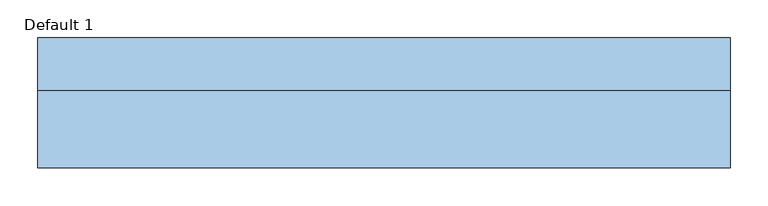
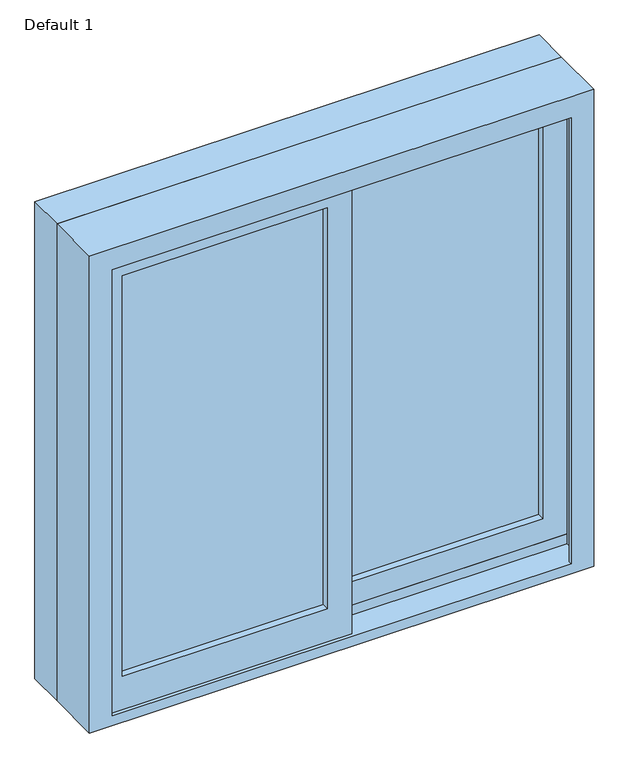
"""IFC4 building model written with IfcOpenShell, lengths in millimetres: window geometry, Planitar-Sliding-Double : Default 1."""

from ifc_helpers import new_model, si_unit, frame, origin, place, context, project, spatial, polyline, outline, extrude, faceted_brep, source, transform, mapped, element, save


def default_1_dd337bf1(model_context):
    return source(origin(), model_context, "Body", "SolidModel", [
        extrude(outline(polyline([(933.45, 22.225), (1809.75, 22.225), (1809.75, -438.15), (933.45, -438.15), (933.45, 22.225)]), holes=[polyline([(1765.3, -393.7), (1765.3, -22.225), (996.95, -22.225), (996.95, -393.7), (1765.3, -393.7)])]), frame((0.0, -85.09, 0.0), z_axis=(0.0, 1.0, 0.0), x_axis=(0.0, 0.0, 1.0)), (0.0, 0.0, 1.0), 44.45),
        extrude(outline(polyline([(952.5, -22.225), (952.5, 438.15), (1809.75, 438.15), (1809.75, -22.225), (952.5, -22.225)]), holes=[polyline([(996.95, 393.7), (996.95, 22.225), (1765.3, 22.225), (1765.3, 393.7), (996.95, 393.7)])]), frame((0.0, -40.64, 0.0), z_axis=(0.0, 1.0, 0.0), x_axis=(0.0, 0.0, 1.0)), (0.0, 0.0, 1.0), 44.45),
        faceted_brep([(-457.2, 10.16, 914.4), (457.2, 10.16, 914.4), (457.2, -91.44, 914.4), (-457.2, -91.44, 914.4), (-416.2778905, -91.44, 1787.8778905), (-416.2778905, -91.44, 933.45), (-416.2778905, -85.09, 933.45), (-416.2778905, -85.09, 1787.8778905), (-438.15, -85.09, 933.45), (-438.15, -85.09, 1809.75), (438.15, -85.09, 1809.75), (438.15, -85.09, 933.45), (416.2778905, -85.09, 933.45), (416.2778905, -85.09, 1787.8778905), (-438.15, -40.64, 933.45), (-438.15, -40.64, 952.5), (-438.15, 3.81, 952.5), (-438.15, 3.81, 933.45), (-438.15, 10.16, 933.45), (-438.15, 10.16, 1809.75), (-457.2, 10.16, 1828.8), (457.2, 10.16, 1828.8), (438.15, 10.16, 1809.75), (438.15, 10.16, 933.45), (-457.2, -91.44, 1828.8), (457.2, -91.44, 1828.8), (416.2778905, -91.44, 1787.8778905), (416.2778905, -91.44, 933.45), (438.15, 3.81, 933.45), (438.15, 3.81, 952.5), (438.15, -40.64, 952.5), (438.15, -40.64, 933.45)], [[[0, 1, 2, 3]], [[4, 5, 6, 7]], [[7, 6, 8, 9, 10, 11, 12, 13]], [[9, 8, 14, 15, 16, 17, 18, 19]], [[0, 20, 21, 1], [22, 19, 18, 23]], [[24, 20, 0, 3]], [[2, 25, 24, 3], [4, 26, 27, 5]], [[7, 13, 26, 4]], [[9, 19, 22, 10]], [[20, 24, 25, 21]], [[13, 12, 27, 26]], [[22, 23, 28, 29, 30, 31, 11, 10]], [[21, 25, 2, 1]], [[27, 12, 11, 31, 14, 8, 6, 5]], [[31, 30, 15, 14]], [[30, 29, 16, 15]], [[29, 28, 17, 16]], [[18, 17, 28, 23]]]),
        extrude(outline(polyline([(1828.8, 457.2), (1828.8, -457.2), (914.4, -457.2), (914.4, 457.2), (1828.8, 457.2)]), holes=[polyline([(1809.75, -438.15), (1809.75, 438.15), (933.45, 438.15), (933.45, -438.15), (1809.75, -438.15)])]), frame((0.0, 10.16, 0.0), z_axis=(0.0, 1.0, 0.0), x_axis=(0.0, 0.0, 1.0)), (0.0, 0.0, 1.0), 69.85),
        extrude(outline(polyline([(393.7, -27.94), (22.225, -27.94), (22.225, -21.59), (393.7, -21.59), (393.7, -27.94)])), frame((0.0, 0.0, 996.95), z_axis=(0.0, 0.0, 1.0), x_axis=(1.0, 0.0, 0.0)), (0.0, 0.0, 1.0), 768.35),
        extrude(outline(polyline([(393.7, -15.24), (22.225, -15.24), (22.225, -8.89), (393.7, -8.89), (393.7, -15.24)])), frame((0.0, 0.0, 996.95), z_axis=(0.0, 0.0, 1.0), x_axis=(1.0, 0.0, 0.0)), (0.0, 0.0, 1.0), 768.35),
        extrude(outline(polyline([(-22.225, -72.39), (-393.7, -72.39), (-393.7, -66.04), (-22.225, -66.04), (-22.225, -72.39)])), frame((0.0, 0.0, 996.95), z_axis=(0.0, 0.0, 1.0), x_axis=(1.0, 0.0, 0.0)), (0.0, 0.0, 1.0), 768.35),
        extrude(outline(polyline([(-22.225, -59.69), (-393.7, -59.69), (-393.7, -53.34), (-22.225, -53.34), (-22.225, -59.69)])), frame((0.0, 0.0, 996.95), z_axis=(0.0, 0.0, 1.0), x_axis=(1.0, 0.0, 0.0)), (0.0, 0.0, 1.0), 768.35),
    ])


if __name__ == "__main__":
    model = new_model("IFC4")
    model_context = context("Model", 3, world=origin())
    ifc_project = project(units=[si_unit("LENGTHUNIT", "METRE", prefix="MILLI")], contexts=[model_context])
    site = spatial("IfcSite", under=ifc_project)
    building = spatial("IfcBuilding", under=site)
    placement = place(None, origin())
    default_1_shape = default_1_dd337bf1(model_context)
    element("IfcWindow", 1, ObjectType="Planitar-Sliding-Double : Default 1", at=placement, inside=building, context=model_context, shape_type="MappedRepresentation", body=[
        mapped(default_1_shape, transform((0.0, 0.0, 0.0), x_axis=(1.0, 0.0, 0.0), y_axis=(0.0, 1.0, 0.0), z_axis=(0.0, 0.0, 1.0))),
    ])
    save(model, "model.ifc")
